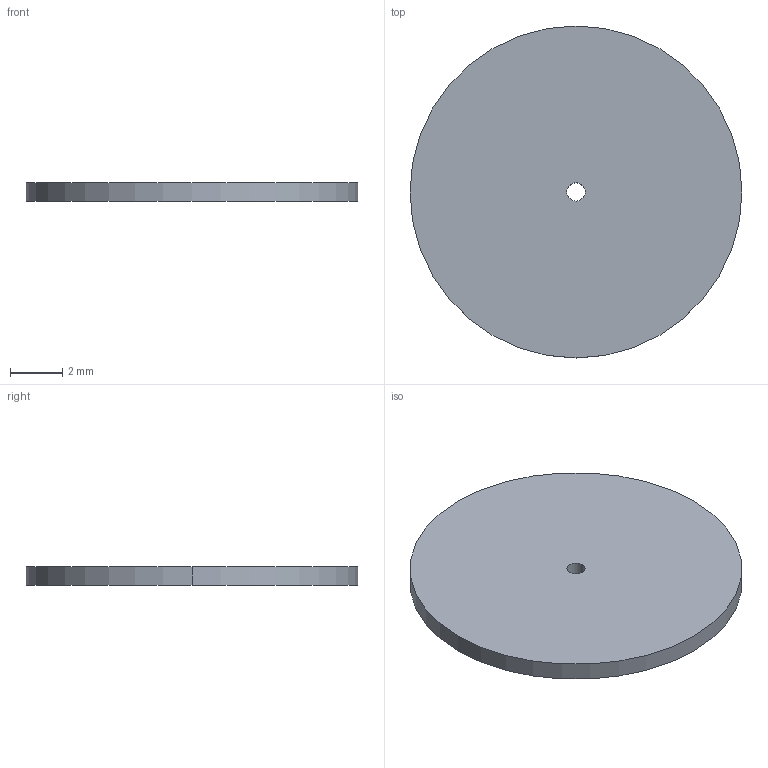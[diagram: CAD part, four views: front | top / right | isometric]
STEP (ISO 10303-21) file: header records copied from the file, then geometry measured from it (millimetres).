
FILE_DESCRIPTION((''),'2;1');
FILE_NAME('07MM','2022-04-24T',('Administrator'),(''),'CREO PARAMETRIC BY PTC INC, 2015290','CREO PARAMETRIC BY PTC INC, 2015290','');
FILE_SCHEMA(('CONFIG_CONTROL_DESIGN'));
Length unit declared in the file: millimetre
Products named in the file (1): 07MM
Bounding box: 12.7 x 12.7 x 0.7 mm (x, y, z)
Volume: 88.4 mm3; surface area: 282.1 mm2
Topology: 1 solids, 1 shells, 6 faces, 12 edges, 8 vertices
Faces by surface type: cylinder 4, plane 2
Entity records: 206 total; most frequent: DIRECTION 32, CARTESIAN_POINT 26, ORIENTED_EDGE 24, AXIS2_PLACEMENT_3D 14, EDGE_CURVE 12, VERTEX_POINT 8, EDGE_LOOP 8, CIRCLE 8
